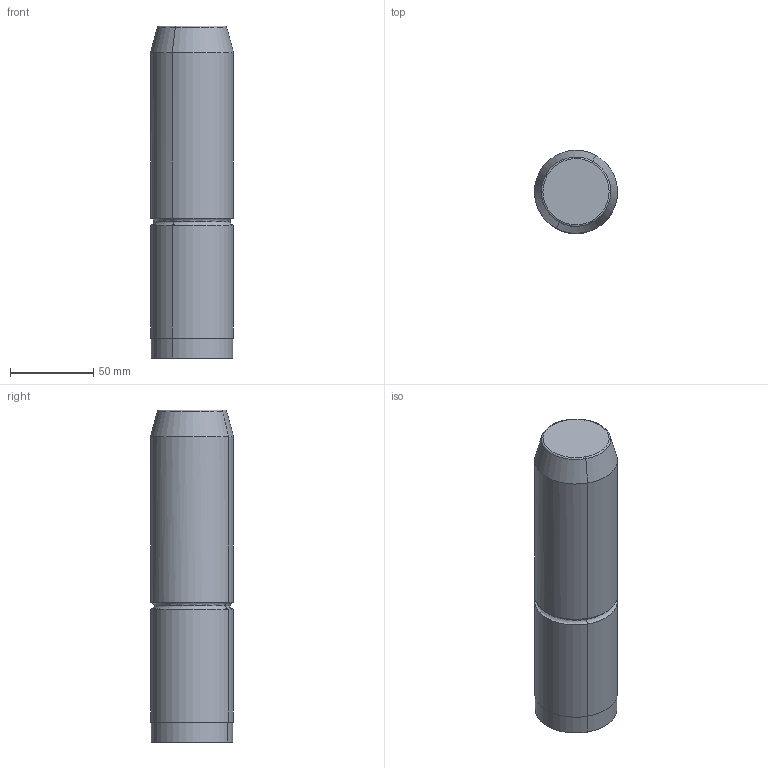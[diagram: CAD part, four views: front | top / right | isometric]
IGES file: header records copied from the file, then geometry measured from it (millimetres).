
Start section: START RECORD GO HERE.
Global section: file name: M104-50x200.igs; native system: DASSAULT SYSTEMES CATIA V5 R20 - www.3ds.com; preprocessor: CATIA Version 5 Release 20 ; author: Utente; organization: NB04-ASUS; date: 20201226.222540; units: millimetre
Bounding box: 49.99 x 49.99 x 200 mm (x, y, z)
Surface area: 34846.6 mm2 (no closed solid volume)
Topology: 0 solids, 0 shells, 17 faces, 64 edges, 64 vertices
Faces by surface type: revolution 14, plane 3
